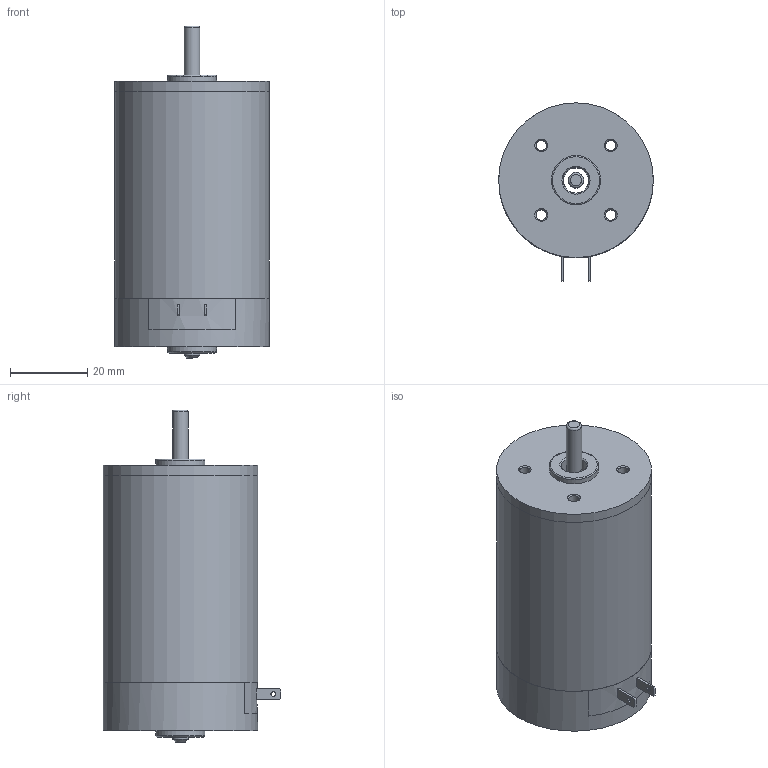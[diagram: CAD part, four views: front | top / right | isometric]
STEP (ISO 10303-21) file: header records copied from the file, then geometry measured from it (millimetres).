
FILE_DESCRIPTION((''),'2;1');
FILE_NAME('D:\연구개발부2팀 1파트\10_진행업무\3D\RM4_SERIES\RM45ㅁBT.stp','2014-06-23T10:14:34',('song'),(''),'Autodesk Inventor 2011','Autodesk Inventor 2011','');
FILE_SCHEMA(('AUTOMOTIVE_DESIGN { 1 0 10303 214 1 1 1 1 }'));
Length unit declared in the file: millimetre
Products named in the file (8): RM45ㅁBT; REAR_HOUSING__ASS'Y_TERMINAL; RM4TYPE_BRUSH_BRAKET_TERMINAL; RM4TYPE_REAR_HOUSING; RM4TYPE_FRONT_HOUSING_; RM4TYPE_PIPE_HOUSING_pi40XL53.5; RM45TYPE_SHAFT; AS 1427 Z - 미터 M3.5 x 5
Assembly tree (7 placements, depth 2):
  RM45ㅁBT
    RM4TYPE_FRONT_HOUSING_
    RM4TYPE_PIPE_HOUSING_pi40XL53.5
    RM45TYPE_SHAFT
    AS 1427 Z - 미터 M3.5 x 5  x2
  REAR_HOUSING__ASS'Y_TERMINAL
    RM4TYPE_BRUSH_BRAKET_TERMINAL
    RM4TYPE_REAR_HOUSING
Bounding box: 40 x 46 x 85.84 mm (x, y, z)
Volume: 23617.7 mm3; surface area: 23297.6 mm2
Topology: 7 solids, 7 shells, 158 faces, 389 edges, 250 vertices
Faces by surface type: plane 73, cone 44, cylinder 30, torus 11
Full cylindrical faces by diameter (mm): 1.2 x2, 2.7 x4, 2.8 x4, 3.132 x2, 3.5 x2, 3.7 x2, 3.969 x1, 4 x1, 6.1 x2, 6.5 x1, 6.65 x1, 12.7 x2, 36.5 x1, 40 x3
Entity records: 3606 total; most frequent: CARTESIAN_POINT 771, DIRECTION 562, ORIENTED_EDGE 458, AXIS2_PLACEMENT_3D 236, EDGE_CURVE 229, EDGE_LOOP 196, VERTEX_POINT 173, FACE_OUTER_BOUND 117
